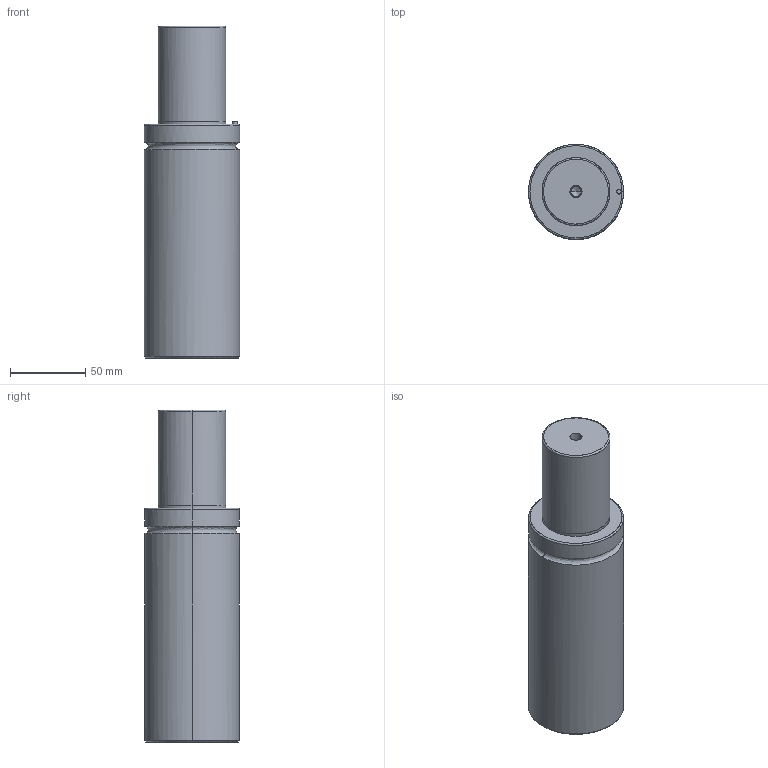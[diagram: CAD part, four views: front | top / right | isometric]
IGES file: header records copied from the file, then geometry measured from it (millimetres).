
Global section: file name: E:\UnigraphicsGraphicData\MISUMI_PRESS-PARTS\IGES\3d_gsm63-63_03892_r00.igs; native system: NX V5.0; preprocessor: UGS NX IGES V5.0; author: MISUMI; date: 20110105.160819; units: millimetre
Bounding box: 63 x 62.92 x 220 mm (x, y, z)
Surface area: 47787.5 mm2 (no closed solid volume)
Topology: 0 solids, 0 shells, 50 faces, 344 edges, 336 vertices
Faces by surface type: bspline 50
